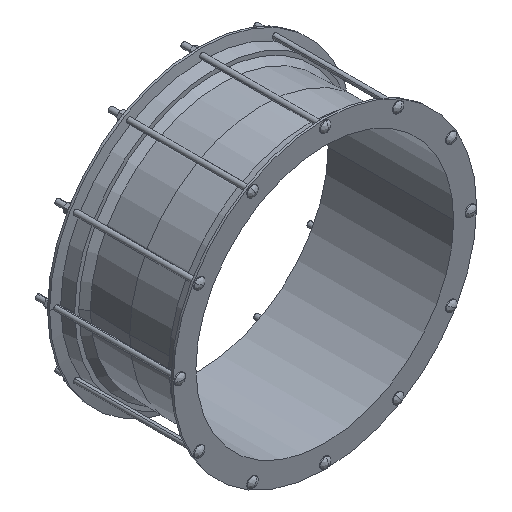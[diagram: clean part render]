
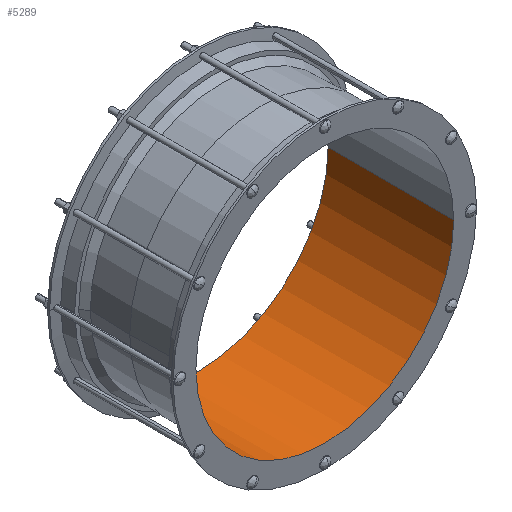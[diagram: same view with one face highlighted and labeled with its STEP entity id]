
A CAD part, isometric view. The second image highlights one B-rep face of the part: STEP entity #5289.
In plain terms, the highlighted cylindrical face has radius 310 mm (diameter 620 mm), a partial arc.
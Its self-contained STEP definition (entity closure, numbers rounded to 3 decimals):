
#1799=CARTESIAN_POINT('',(0.,151.,0.));
#1800=DIRECTION('',(0.,-1.,0.));
#1801=DIRECTION('',(-1.,0.,0.));
#1802=AXIS2_PLACEMENT_3D('',#1799,#1800,#1801);
#1929=CARTESIAN_POINT('',(0.,-151.,0.));
#1930=DIRECTION('',(0.,-1.,0.));
#1931=DIRECTION('',(-1.,0.,0.));
#1932=AXIS2_PLACEMENT_3D('',#1929,#1930,#1931);
#1934=DIRECTION('',(0.,1.,0.));
#1935=VECTOR('',#1934,302.);
#1936=CARTESIAN_POINT('',(-310.,-151.,0.));
#1937=LINE('',#1936,#1935);
#1943=DIRECTION('',(0.,1.,0.));
#1944=VECTOR('',#1943,302.);
#1945=CARTESIAN_POINT('',(310.,-151.,0.));
#1946=LINE('',#1945,#1944);
#3886=CARTESIAN_POINT('',(-310.,-151.,0.));
#3887=CARTESIAN_POINT('',(-310.,151.,0.));
#3888=VERTEX_POINT('',#3886);
#3889=VERTEX_POINT('',#3887);
#3904=CARTESIAN_POINT('',(310.,-151.,0.));
#3905=CARTESIAN_POINT('',(310.,151.,0.));
#3906=VERTEX_POINT('',#3904);
#3907=VERTEX_POINT('',#3905);
#5275=CARTESIAN_POINT('',(0.,166.1,0.));
#5276=DIRECTION('',(0.,-1.,0.));
#5277=DIRECTION('',(-1.,0.,0.));
#5278=AXIS2_PLACEMENT_3D('',#5275,#5276,#5277);
#5279=CYLINDRICAL_SURFACE('',#5278,310.);
#5281=ORIENTED_EDGE('',*,*,#5280,.T.);
#5282=ORIENTED_EDGE('',*,*,#5197,.T.);
#5284=ORIENTED_EDGE('',*,*,#5283,.F.);
#5286=ORIENTED_EDGE('',*,*,#5285,.F.);
#5287=EDGE_LOOP('',(#5281,#5282,#5284,#5286));
#5288=FACE_OUTER_BOUND('',#5287,.F.);
#5289=ADVANCED_FACE('',(#5288),#5279,.F.);
#1803=CIRCLE('',#1802,310.);
#1933=CIRCLE('',#1932,310.);
#5197=EDGE_CURVE('',#3889,#3907,#1803,.T.);
#5280=EDGE_CURVE('',#3888,#3889,#1937,.T.);
#5283=EDGE_CURVE('',#3906,#3907,#1946,.T.);
#5285=EDGE_CURVE('',#3888,#3906,#1933,.T.);
